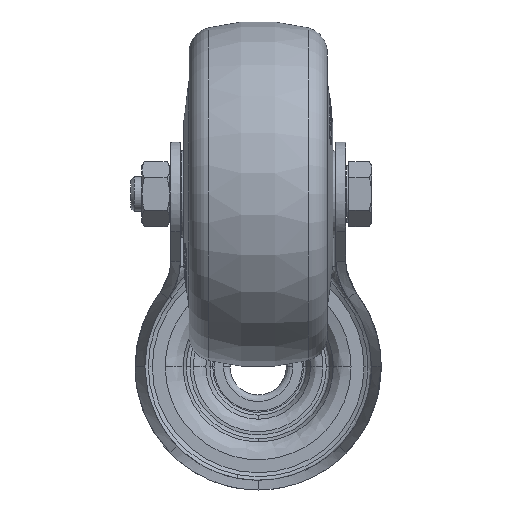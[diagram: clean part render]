
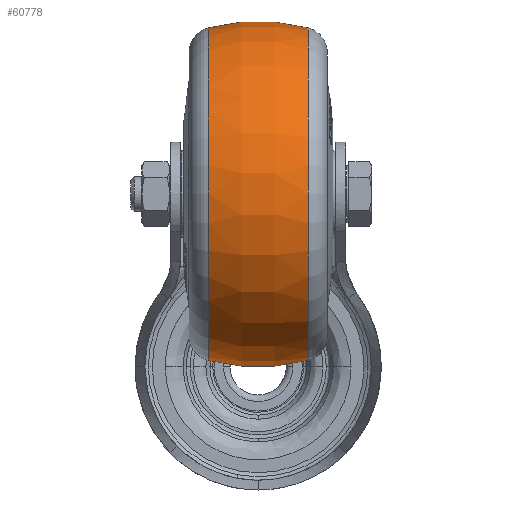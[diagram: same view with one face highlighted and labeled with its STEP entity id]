
A CAD part, front view. The second image highlights one B-rep face of the part: STEP entity #60778.
In plain terms, the highlighted toroidal (fillet/blend) face has major radius 5 mm and minor radius 45 mm.
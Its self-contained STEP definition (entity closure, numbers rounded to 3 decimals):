
#8503 = CARTESIAN_POINT ( 'NONE',  ( 11.538, 0., -38.496 ) ) ;
#8506 = CARTESIAN_POINT ( 'NONE',  ( 11.538, 0., 38.496 ) ) ;
#8514 = CARTESIAN_POINT ( 'NONE',  ( -11.538, 0., -38.496 ) ) ;
#8518 = CARTESIAN_POINT ( 'NONE',  ( -11.538, 0., 38.496 ) ) ;
#9450 = TOROIDAL_SURFACE ( 'NONE', #41754, -5., 45. ) ;
#9544 = FACE_OUTER_BOUND ( 'NONE', #64697, .T. ) ;
#32605 = DIRECTION ( 'NONE',  ( -1., 0., 0. ) ) ;
#32613 = CARTESIAN_POINT ( 'NONE',  ( 0., 0., 0. ) ) ;
#32652 = DIRECTION ( 'NONE',  ( 0., 0., 1. ) ) ;
#41754 = AXIS2_PLACEMENT_3D ( 'NONE', #32613, #32605, #32652 ) ;
#41949 = CIRCLE ( 'NONE', #56304, 45. ) ;
#41955 = CIRCLE ( 'NONE', #56307, 45. ) ;
#42228 = CIRCLE ( 'NONE', #56146, 38.496 ) ;
#42257 = CIRCLE ( 'NONE', #56130, 38.496 ) ;
#47460 = CARTESIAN_POINT ( 'NONE',  ( 0., 0., -5. ) ) ;
#47488 = DIRECTION ( 'NONE',  ( 0., -1., 0. ) ) ;
#47492 = DIRECTION ( 'NONE',  ( 0., 0., -1. ) ) ;
#47506 = CARTESIAN_POINT ( 'NONE',  ( 0., 0., 5. ) ) ;
#47513 = DIRECTION ( 'NONE',  ( 0., 1., 0. ) ) ;
#47516 = DIRECTION ( 'NONE',  ( 0., 0., 1. ) ) ;
#52705 = ORIENTED_EDGE ( 'NONE', *, *, #53905, .F. ) ;
#52706 = ORIENTED_EDGE ( 'NONE', *, *, #54899, .T. ) ;
#52707 = ORIENTED_EDGE ( 'NONE', *, *, #53931, .T. ) ;
#52708 = ORIENTED_EDGE ( 'NONE', *, *, #54904, .F. ) ;
#53905 = EDGE_CURVE ( 'NONE', #64181, #64183, #42257, .T. ) ;
#53931 = EDGE_CURVE ( 'NONE', #64175, #64176, #42228, .T. ) ;
#54638 = CARTESIAN_POINT ( 'NONE',  ( -11.538, 0., 0. ) ) ;
#54640 = DIRECTION ( 'NONE',  ( -1., 0., 0. ) ) ;
#54642 = DIRECTION ( 'NONE',  ( 0., 0., 1. ) ) ;
#54707 = CARTESIAN_POINT ( 'NONE',  ( 11.538, 0., 0. ) ) ;
#54709 = DIRECTION ( 'NONE',  ( -1., 0., 0. ) ) ;
#54711 = DIRECTION ( 'NONE',  ( 0., 0., 1. ) ) ;
#54899 = EDGE_CURVE ( 'NONE', #64176, #64183, #41955, .T. ) ;
#54904 = EDGE_CURVE ( 'NONE', #64175, #64181, #41949, .T. ) ;
#56130 = AXIS2_PLACEMENT_3D ( 'NONE', #54638, #54640, #54642 ) ;
#56146 = AXIS2_PLACEMENT_3D ( 'NONE', #54707, #54709, #54711 ) ;
#56304 = AXIS2_PLACEMENT_3D ( 'NONE', #47506, #47513, #47516 ) ;
#56307 = AXIS2_PLACEMENT_3D ( 'NONE', #47460, #47488, #47492 ) ;
#60778 = ADVANCED_FACE ( 'NONE', ( #9544 ), #9450, .T. ) ;
#64175 = VERTEX_POINT ( 'NONE', #8503 ) ;
#64176 = VERTEX_POINT ( 'NONE', #8506 ) ;
#64181 = VERTEX_POINT ( 'NONE', #8514 ) ;
#64183 = VERTEX_POINT ( 'NONE', #8518 ) ;
#64697 = EDGE_LOOP ( 'NONE', ( #52708, #52707, #52706, #52705 ) ) ;
